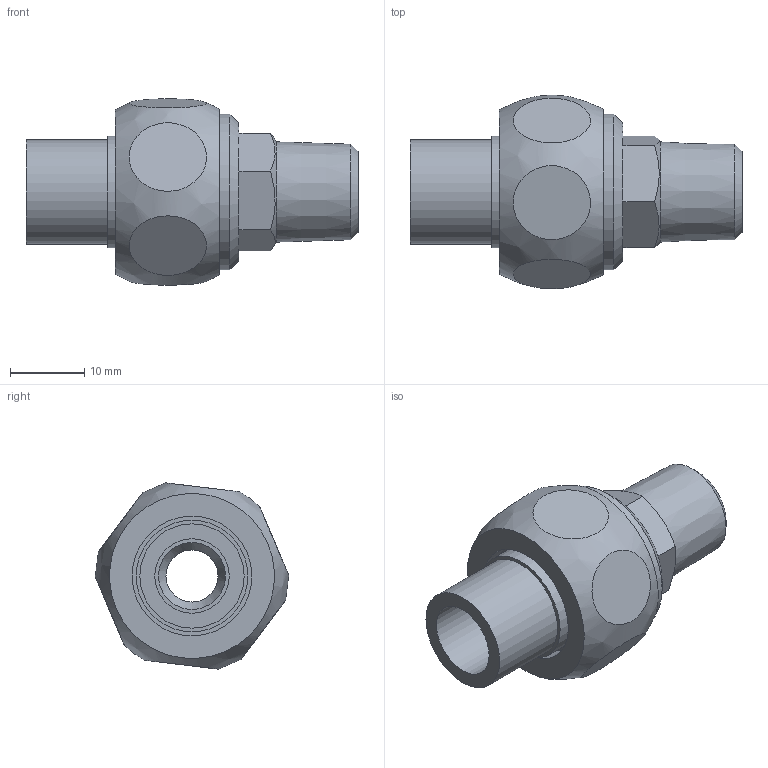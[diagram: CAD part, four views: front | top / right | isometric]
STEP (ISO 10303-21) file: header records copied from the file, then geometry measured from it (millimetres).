
FILE_DESCRIPTION(/* description */ (''),/* implementation_level */ '2;1');
FILE_NAME(/* name */ '\\lg50011\SANHA_LEGNICA\Engineering\Public\RYSUNKI\SANHA POLSKA\4343\Inventor\stp\143431014.stp',/* time_stamp */ '2021-10-06T07:25:52+02:00',/* author */ ('gomulka'),/* organization */ (''),/* preprocessor_version */ 'ST-DEVELOPER v18.1',/* originating_system */ 'Autodesk Inventor 2021',/* authorisation */ '');
FILE_SCHEMA (('AUTOMOTIVE_DESIGN { 1 0 10303 214 3 1 1 }'));
Length unit declared in the file: millimetre
Products named in the file (4): 143431014; 14381_10-12(1); 14386g_14-12(1); 14374B_12(0)
Assembly tree (3 placements, depth 2):
  143431014
    14381_10-12(1)
    14386g_14-12(1)
    14374B_12(0)
Bounding box: 44.61 x 25.99 x 25.03 mm (x, y, z)
Volume: 9144.8 mm3; surface area: 6585.7 mm2
Topology: 3 solids, 3 shells, 48 faces, 123 edges, 91 vertices
Faces by surface type: plane 23, cylinder 16, cone 7, bspline 2
Full cylindrical faces by diameter (mm): 7 x1, 9 x1, 10 x1, 14 x1, 15 x2, 16.1 x1, 18.3 x1, 18.63 x1, 20.955 x1
Entity records: 2024 total; most frequent: CARTESIAN_POINT 634, DIRECTION 285, ORIENTED_EDGE 246, AXIS2_PLACEMENT_3D 125, EDGE_CURVE 123, VERTEX_POINT 91, CIRCLE 72, EDGE_LOOP 64
